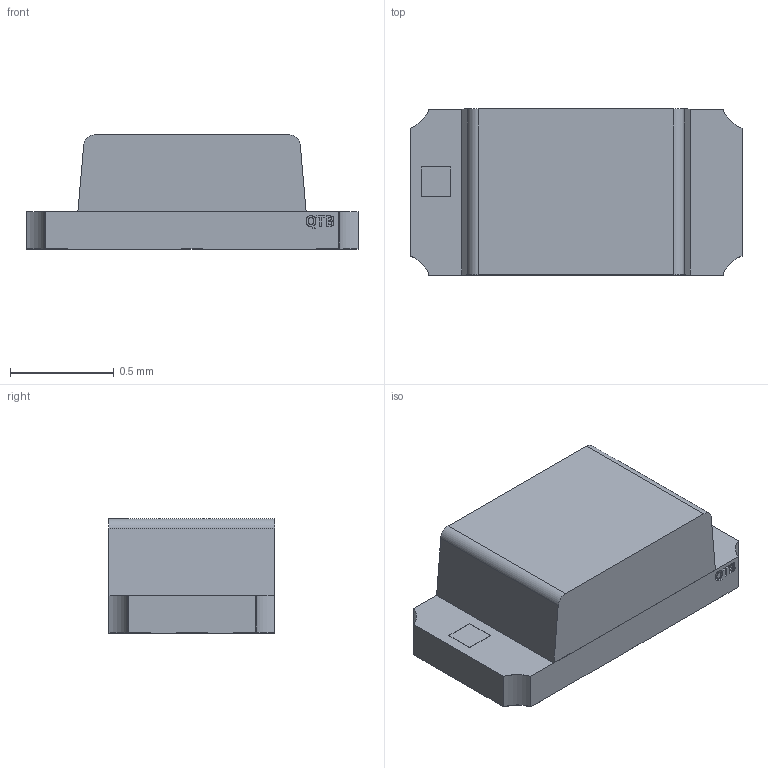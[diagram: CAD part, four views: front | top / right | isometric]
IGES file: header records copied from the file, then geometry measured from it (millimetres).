
Start section: Data from Parasolid IGES Translator 23.1.110, Copyright(c) 2006 Siemens PLM Software. All Rights Reserved.
Global section: file name: 5fab0a6fa90bb40f56aa721e.iges; native system: By Siemens PLM Incorporated; preprocessor: XPlus GENERIC/IGES 23.1.110; author: Noname; organization: Noname; date: 20201110.214727; units: metre
Bounding box: 1.6 x 0.8 x 0.55 mm (x, y, z)
Surface area: 8 mm2 (no closed solid volume)
Topology: 0 solids, 0 shells, 208 faces, 1102 edges, 1102 vertices
Faces by surface type: extrusion 194, revolution 14
